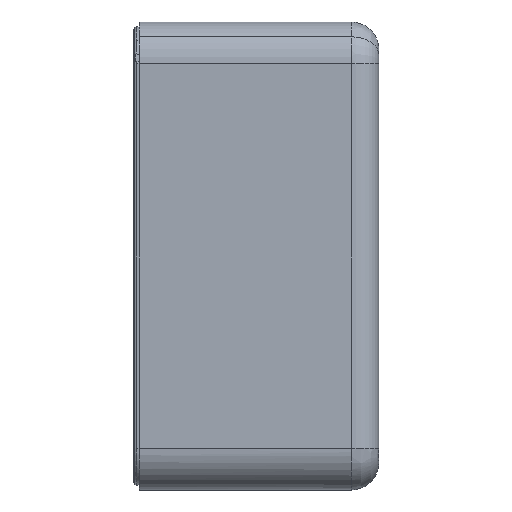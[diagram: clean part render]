
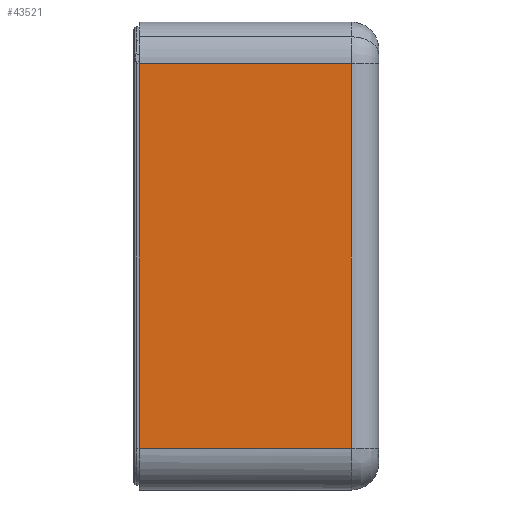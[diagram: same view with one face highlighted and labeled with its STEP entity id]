
A CAD part, left-side view. The second image highlights one B-rep face of the part: STEP entity #43521.
In plain terms, the highlighted planar face has unit normal (-1, 0, 0).
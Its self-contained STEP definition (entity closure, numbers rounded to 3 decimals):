
#401 = ORIENTED_EDGE ( 'NONE', *, *, #32180, .T. ) ;
#516 = LINE ( 'NONE', #9219, #30033 ) ;
#2887 = CARTESIAN_POINT ( 'NONE',  ( -11.071, -7.69, -6.968 ) ) ;
#3713 = CARTESIAN_POINT ( 'NONE',  ( -11.071, 0., -6.968 ) ) ;
#4898 = LINE ( 'NONE', #15654, #46318 ) ;
#8144 = FACE_OUTER_BOUND ( 'NONE', #22988, .T. ) ;
#9219 = CARTESIAN_POINT ( 'NONE',  ( -11.071, 27.894, -6.968 ) ) ;
#9991 = LINE ( 'NONE', #20024, #18187 ) ;
#15003 = CARTESIAN_POINT ( 'NONE',  ( -11.071, 0., 6.968 ) ) ;
#15654 = CARTESIAN_POINT ( 'NONE',  ( -11.071, -7.69, -6.968 ) ) ;
#18187 = VECTOR ( 'NONE', #24036, 39.37 ) ;
#18807 = CARTESIAN_POINT ( 'NONE',  ( -11.071, 0., -6.968 ) ) ;
#19906 = CARTESIAN_POINT ( 'NONE',  ( -11.071, 27.894, -6.968 ) ) ;
#20024 = CARTESIAN_POINT ( 'NONE',  ( -11.071, 27.894, 6.968 ) ) ;
#20613 = VERTEX_POINT ( 'NONE', #18807 ) ;
#22988 = EDGE_LOOP ( 'NONE', ( #46917, #401, #31431, #40108 ) ) ;
#23198 = LINE ( 'NONE', #3713, #43249 ) ;
#24036 = DIRECTION ( 'NONE',  ( 0., -1., 0. ) ) ;
#24267 = DIRECTION ( 'NONE',  ( 0., 0., 1. ) ) ;
#24742 = EDGE_CURVE ( 'NONE', #47038, #20613, #23198, .T. ) ;
#30033 = VECTOR ( 'NONE', #41292, 39.37 ) ;
#30263 = VERTEX_POINT ( 'NONE', #48667 ) ;
#31431 = ORIENTED_EDGE ( 'NONE', *, *, #42496, .F. ) ;
#31954 = EDGE_CURVE ( 'NONE', #20613, #40940, #516, .T. ) ;
#32180 = EDGE_CURVE ( 'NONE', #40940, #30263, #4898, .T. ) ;
#35832 = DIRECTION ( 'NONE',  ( 0., 0., -1. ) ) ;
#39689 = DIRECTION ( 'NONE',  ( 0., 0., 1. ) ) ;
#40108 = ORIENTED_EDGE ( 'NONE', *, *, #24742, .T. ) ;
#40940 = VERTEX_POINT ( 'NONE', #2887 ) ;
#41292 = DIRECTION ( 'NONE',  ( 0., -1., 0. ) ) ;
#42496 = EDGE_CURVE ( 'NONE', #47038, #30263, #9991, .T. ) ;
#43249 = VECTOR ( 'NONE', #35832, 39.37 ) ;
#43521 = ADVANCED_FACE ( 'NONE', ( #8144 ), #44237, .T. ) ;
#44237 = PLANE ( 'NONE',  #44813 ) ;
#44813 = AXIS2_PLACEMENT_3D ( 'NONE', #19906, #48273, #24267 ) ;
#46318 = VECTOR ( 'NONE', #39689, 39.37 ) ;
#46917 = ORIENTED_EDGE ( 'NONE', *, *, #31954, .T. ) ;
#47038 = VERTEX_POINT ( 'NONE', #15003 ) ;
#48273 = DIRECTION ( 'NONE',  ( -1., 0., 0. ) ) ;
#48667 = CARTESIAN_POINT ( 'NONE',  ( -11.071, -7.69, 6.968 ) ) ;
